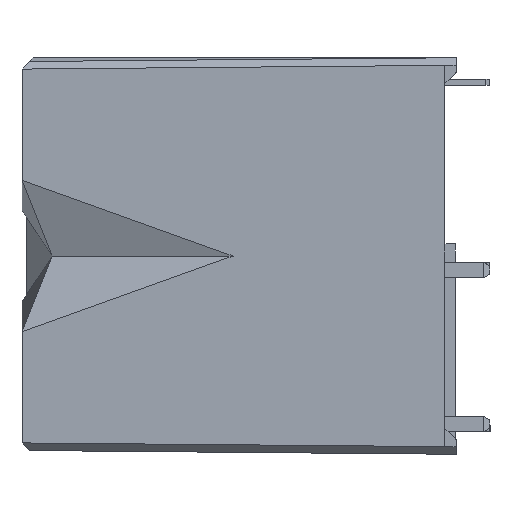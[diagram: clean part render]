
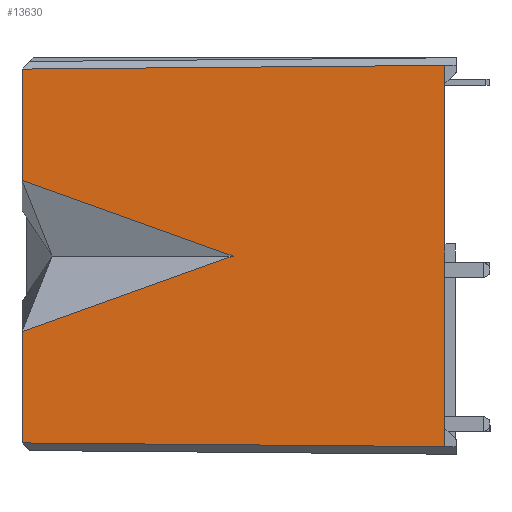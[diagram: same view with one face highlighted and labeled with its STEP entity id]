
A CAD part, left-side view. The second image highlights one B-rep face of the part: STEP entity #13630.
In plain terms, the highlighted planar face has unit normal (-1, 0.009, 0).
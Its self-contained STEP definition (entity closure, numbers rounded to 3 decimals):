
#3116=ORIENTED_EDGE('',*,*,#5737,.F.);
#3117=ORIENTED_EDGE('',*,*,#5738,.T.);
#3118=ORIENTED_EDGE('',*,*,#5695,.T.);
#3119=ORIENTED_EDGE('',*,*,#5739,.T.);
#3120=ORIENTED_EDGE('',*,*,#5740,.F.);
#3121=ORIENTED_EDGE('',*,*,#5741,.T.);
#3122=ORIENTED_EDGE('',*,*,#5742,.F.);
#3123=ORIENTED_EDGE('',*,*,#5743,.F.);
#3124=ORIENTED_EDGE('',*,*,#5744,.F.);
#3125=ORIENTED_EDGE('',*,*,#5745,.F.);
#3126=ORIENTED_EDGE('',*,*,#5746,.T.);
#5695=EDGE_CURVE('',#7159,#7158,#8785,.T.);
#5737=EDGE_CURVE('',#7191,#7192,#8825,.T.);
#5738=EDGE_CURVE('',#7191,#7159,#8826,.T.);
#5739=EDGE_CURVE('',#7158,#7193,#8827,.T.);
#5740=EDGE_CURVE('',#7194,#7193,#8828,.T.);
#5741=EDGE_CURVE('',#7194,#7195,#8829,.T.);
#5742=EDGE_CURVE('',#7196,#7195,#8830,.T.);
#5743=EDGE_CURVE('',#7197,#7196,#8831,.T.);
#5744=EDGE_CURVE('',#7198,#7197,#8832,.T.);
#5745=EDGE_CURVE('',#7199,#7198,#8833,.T.);
#5746=EDGE_CURVE('',#7199,#7192,#8834,.T.);
#7158=VERTEX_POINT('',#23251);
#7159=VERTEX_POINT('',#23253);
#7191=VERTEX_POINT('',#23336);
#7192=VERTEX_POINT('',#23337);
#7193=VERTEX_POINT('',#23340);
#7194=VERTEX_POINT('',#23342);
#7195=VERTEX_POINT('',#23344);
#7196=VERTEX_POINT('',#23346);
#7197=VERTEX_POINT('',#23348);
#7198=VERTEX_POINT('',#23350);
#7199=VERTEX_POINT('',#23352);
#8785=LINE('',#23252,#10482);
#8825=LINE('',#23335,#10522);
#8826=LINE('',#23338,#10523);
#8827=LINE('',#23339,#10524);
#8828=LINE('',#23341,#10525);
#8829=LINE('',#23343,#10526);
#8830=LINE('',#23345,#10527);
#8831=LINE('',#23347,#10528);
#8832=LINE('',#23349,#10529);
#8833=LINE('',#23351,#10530);
#8834=LINE('',#23353,#10531);
#10482=VECTOR('',#17314,1000.);
#10522=VECTOR('',#17376,1000.);
#10523=VECTOR('',#17377,1000.);
#10524=VECTOR('',#17378,1000.);
#10525=VECTOR('',#17379,1000.);
#10526=VECTOR('',#17380,1000.);
#10527=VECTOR('',#17381,1000.);
#10528=VECTOR('',#17382,1000.);
#10529=VECTOR('',#17383,1000.);
#10530=VECTOR('',#17384,1000.);
#10531=VECTOR('',#17385,1000.);
#11422=EDGE_LOOP('',(#3116,#3117,#3118,#3119,#3120,#3121,#3122,#3123,#3124,
#3125,#3126));
#12246=FACE_BOUND('',#11422,.T.);
#12959=PLANE('',#14549);
#13630=ADVANCED_FACE('',(#12246),#12959,.T.);
#14549=AXIS2_PLACEMENT_3D('',#23334,#17374,#17375);
#17314=DIRECTION('',(0.,0.,1.));
#17374=DIRECTION('',(-1.,0.009,0.));
#17375=DIRECTION('',(0.,0.,-1.));
#17376=DIRECTION('',(0.009,1.,0.009));
#17377=DIRECTION('',(0.,0.,1.));
#17378=DIRECTION('',(0.,0.,1.));
#17379=DIRECTION('',(-0.009,-1.,0.009));
#17380=DIRECTION('',(0.,0.,-1.));
#17381=DIRECTION('',(0.004,0.414,0.91));
#17382=DIRECTION('',(0.008,0.941,0.337));
#17383=DIRECTION('',(-0.008,-0.941,0.337));
#17384=DIRECTION('',(-0.004,-0.414,0.91));
#17385=DIRECTION('',(0.,0.,-1.));
#23251=CARTESIAN_POINT('',(-38.11,-3.755,43.557));
#23252=CARTESIAN_POINT('',(-38.11,-3.755,-3.493));
#23253=CARTESIAN_POINT('',(-38.11,-3.755,-2.043));
#23334=CARTESIAN_POINT('',(-37.622,52.253,-4.503));
#23335=CARTESIAN_POINT('',(-37.622,52.249,-4.004));
#23336=CARTESIAN_POINT('',(-38.11,-3.755,-4.493));
#23337=CARTESIAN_POINT('',(-37.622,52.245,-4.004));
#23338=CARTESIAN_POINT('',(-38.11,-3.755,-4.493));
#23339=CARTESIAN_POINT('',(-38.11,-3.755,-3.493));
#23340=CARTESIAN_POINT('',(-38.11,-3.755,46.007));
#23341=CARTESIAN_POINT('',(-37.618,52.69,45.515));
#23342=CARTESIAN_POINT('',(-37.622,52.245,45.519));
#23343=CARTESIAN_POINT('',(-37.622,52.245,23.956));
#23344=CARTESIAN_POINT('',(-37.622,52.245,30.8));
#23345=CARTESIAN_POINT('',(-37.738,38.948,1.545));
#23346=CARTESIAN_POINT('',(-37.622,52.229,30.766));
#23347=CARTESIAN_POINT('',(-37.719,41.053,26.762));
#23348=CARTESIAN_POINT('',(-37.866,24.292,20.757));
#23349=CARTESIAN_POINT('',(-37.579,57.092,9.007));
#23350=CARTESIAN_POINT('',(-37.622,52.229,10.749));
#23351=CARTESIAN_POINT('',(-37.572,57.979,-1.9));
#23352=CARTESIAN_POINT('',(-37.622,52.245,10.714));
#23353=CARTESIAN_POINT('',(-37.622,52.245,-4.503));
